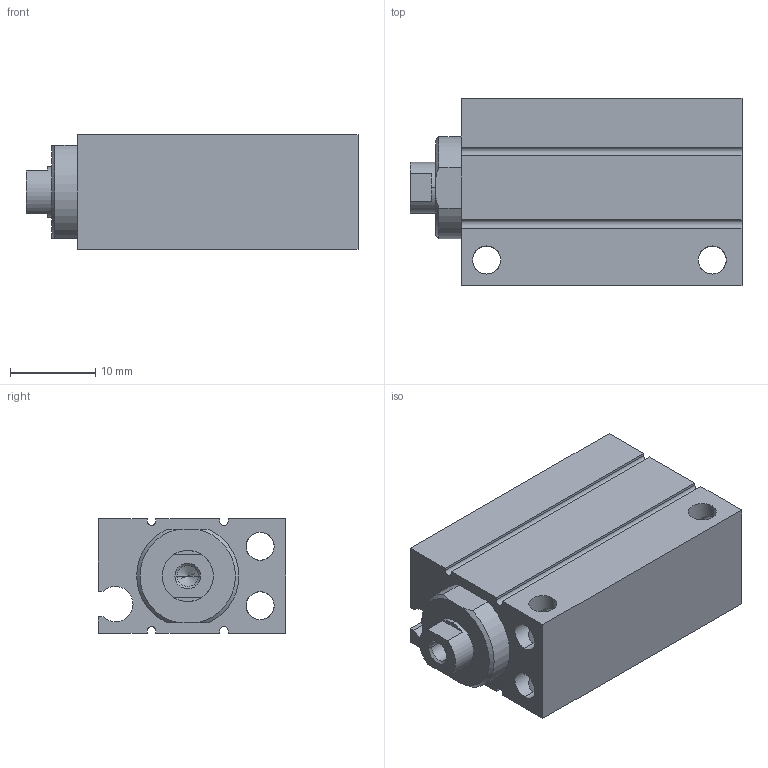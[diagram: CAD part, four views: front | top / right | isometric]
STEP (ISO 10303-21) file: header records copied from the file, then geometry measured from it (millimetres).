
FILE_DESCRIPTION (( 'STEP AP203' ), '1' );
FILE_NAME ('CLJB10-20.STEP', '2020-07-30T18:48:12', ( '' ), ( '' ), 'SwSTEP 2.0', 'SolidWorks 2019', '' );
FILE_SCHEMA (( 'CONFIG_CONTROL_DESIGN' ));
Length unit declared in the file: millimetre
Products named in the file (1): CLJB10-20
Bounding box: 39 x 22 x 13.5 mm (x, y, z)
Volume: 7886.6 mm3; surface area: 5912.3 mm2
Topology: 2 solids, 2 shells, 96 faces, 252 edges, 153 vertices
Faces by surface type: cylinder 49, plane 33, cone 14
Entity records: 2995 total; most frequent: CARTESIAN_POINT 604, ORIENTED_EDGE 492, DIRECTION 482, EDGE_CURVE 246, AXIS2_PLACEMENT_3D 175, VERTEX_POINT 153, LINE 132, VECTOR 132
